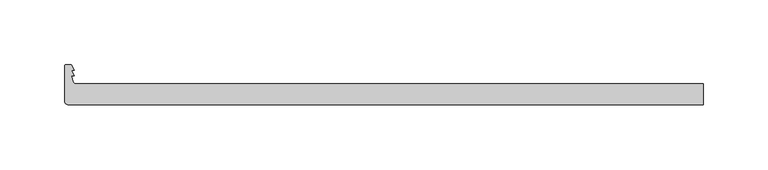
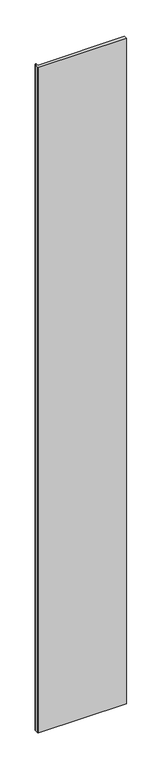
"""IFC4 building model written with IfcOpenShell, lengths in millimetres: plate geometry, Walls_Curtain-Walls_Danpal_VRS-System : Walls_Curtain-Walls_Danpal_VRS-System."""

from ifc_helpers import new_model, si_unit, point, frame_2d, origin, origin_with_axes, place, context, project, spatial, polyline, circle_curve, trimmed, segment, composite_curve, outline, extrude, source, transform, mapped, element, save


def plate_27c9e9b5(model_context):
    return source(origin(), model_context, "Body", "SweptSolid", [
        extrude(outline(composite_curve([segment(polyline([(-238.7640105, 16.0), (247.5, 16.0), (247.5, 0.0), (-244.8491187, 0.0)]), True, "CONTINUOUS"), segment(trimmed(circle_curve(frame_2d((-244.8491187, 2.6508813)), 2.6508813), [point((-244.8491187, 0.0))], [point((-247.5, 2.6508813))], False, "CARTESIAN"), True, "CONTINUOUS"), segment(polyline([(-247.5, 2.6508813), (-247.5, 29.6745594)]), True, "CONTINUOUS"), segment(trimmed(circle_curve(frame_2d((-246.1745594, 29.6745594)), 1.3254406), [point((-247.5, 29.6745594))], [point((-246.1745594, 31.0))], False, "CARTESIAN"), True, "CONTINUOUS"), segment(polyline([(-246.1745594, 31.0), (-243.1998904, 31.0)]), True, "CONTINUOUS"), segment(trimmed(circle_curve(frame_2d((-243.1998904, 29.5)), 1.5), [point((-243.1998904, 31.0))], [point((-241.8615937, 30.1774675))], False, "CARTESIAN"), True, "CONTINUOUS"), segment(polyline([(-241.8615937, 30.1774675), (-240.0, 26.5), (-242.1714966, 26.5), (-240.0, 22.2103379), (-242.4106029, 22.2103379), (-240.6451446, 17.3207839)]), True, "CONTINUOUS"), segment(trimmed(circle_curve(frame_2d((-238.7640105, 18.0)), 2.0), [point((-240.6451446, 17.3207839))], [point((-238.7640105, 16.0))], True, "CARTESIAN"), True, "CONTINUOUS")], self_intersect=False)), origin_with_axes(), (0.0, 0.0, 1.0), 3938.1633646),
    ])


if __name__ == "__main__":
    model = new_model("IFC4")
    model_context = context("Model", 3, world=origin())
    ifc_project = project(units=[si_unit("LENGTHUNIT", "METRE", prefix="MILLI")], contexts=[model_context])
    site = spatial("IfcSite", under=ifc_project)
    building = spatial("IfcBuilding", under=site)
    placement = place(None, origin())
    plate_shape = plate_27c9e9b5(model_context)
    element("IfcPlate", 1, ObjectType="Walls_Curtain-Walls_Danpal_VRS-System : Walls_Curtain-Walls_Danpal_VRS-System", at=placement, inside=building, context=model_context, shape_type="MappedRepresentation", body=[
        mapped(plate_shape, transform((0.0, 0.0, 0.0), x_axis=(1.0, 0.0, 0.0), y_axis=(0.0, 1.0, 0.0), z_axis=(0.0, 0.0, 1.0))),
    ])
    save(model, "model.ifc")
